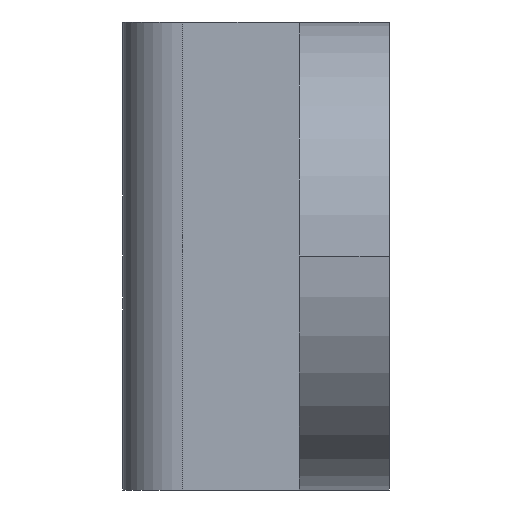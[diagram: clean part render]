
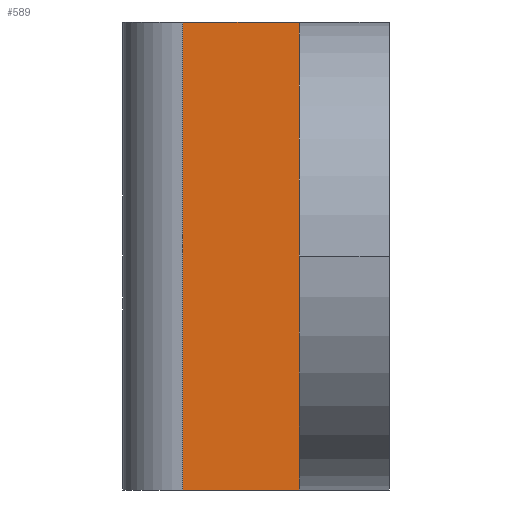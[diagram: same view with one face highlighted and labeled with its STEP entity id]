
A CAD part, left-side view. The second image highlights one B-rep face of the part: STEP entity #589.
In plain terms, the highlighted planar face has unit normal (-1, 0, 0).
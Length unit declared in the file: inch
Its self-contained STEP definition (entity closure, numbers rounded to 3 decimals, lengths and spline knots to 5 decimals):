
#20 = EDGE_CURVE ( 'NONE', #490, #824, #145, .T. ) ;
#72 = DIRECTION ( 'NONE',  ( 0., -1., 0. ) ) ;
#91 = EDGE_CURVE ( 'NONE', #364, #344, #414, .T. ) ;
#130 = VECTOR ( 'NONE', #929, 39.37008 ) ;
#131 = ORIENTED_EDGE ( 'NONE', *, *, #190, .F. ) ;
#145 = LINE ( 'NONE', #539, #130 ) ;
#190 = EDGE_CURVE ( 'NONE', #490, #364, #370, .T. ) ;
#228 = EDGE_LOOP ( 'NONE', ( #131, #1051, #716, #310 ) ) ;
#284 = CARTESIAN_POINT ( 'NONE',  ( -0.55, 0.356, -0.3125 ) ) ;
#300 = CARTESIAN_POINT ( 'NONE',  ( -0.55, 0.12, -0.3125 ) ) ;
#310 = ORIENTED_EDGE ( 'NONE', *, *, #91, .F. ) ;
#328 = EDGE_CURVE ( 'NONE', #824, #344, #587, .T. ) ;
#344 = VERTEX_POINT ( 'NONE', #300 ) ;
#353 = CARTESIAN_POINT ( 'NONE',  ( -0.55, 0.356, 0.3125 ) ) ;
#364 = VERTEX_POINT ( 'NONE', #782 ) ;
#370 = LINE ( 'NONE', #353, #776 ) ;
#395 = DIRECTION ( 'NONE',  ( 0., -1., 0. ) ) ;
#398 = VECTOR ( 'NONE', #910, 39.37008 ) ;
#414 = LINE ( 'NONE', #795, #398 ) ;
#475 = AXIS2_PLACEMENT_3D ( 'NONE', #1231, #1071, #855 ) ;
#490 = VERTEX_POINT ( 'NONE', #605 ) ;
#539 = CARTESIAN_POINT ( 'NONE',  ( -0.55, 0.276, 0.3125 ) ) ;
#587 = LINE ( 'NONE', #284, #1225 ) ;
#589 = ADVANCED_FACE ( 'NONE', ( #1271 ), #949, .F. ) ;
#605 = CARTESIAN_POINT ( 'NONE',  ( -0.55, 0.276, 0.3125 ) ) ;
#716 = ORIENTED_EDGE ( 'NONE', *, *, #328, .T. ) ;
#776 = VECTOR ( 'NONE', #72, 39.37008 ) ;
#782 = CARTESIAN_POINT ( 'NONE',  ( -0.55, 0.12, 0.3125 ) ) ;
#795 = CARTESIAN_POINT ( 'NONE',  ( -0.55, 0.12, 0.3125 ) ) ;
#824 = VERTEX_POINT ( 'NONE', #1208 ) ;
#855 = DIRECTION ( 'NONE',  ( 0., 0., -1. ) ) ;
#910 = DIRECTION ( 'NONE',  ( 0., 0., -1. ) ) ;
#929 = DIRECTION ( 'NONE',  ( 0., 0., -1. ) ) ;
#949 = PLANE ( 'NONE',  #475 ) ;
#1051 = ORIENTED_EDGE ( 'NONE', *, *, #20, .T. ) ;
#1071 = DIRECTION ( 'NONE',  ( 1., 0., 0. ) ) ;
#1208 = CARTESIAN_POINT ( 'NONE',  ( -0.55, 0.276, -0.3125 ) ) ;
#1225 = VECTOR ( 'NONE', #395, 39.37008 ) ;
#1231 = CARTESIAN_POINT ( 'NONE',  ( -0.55, 0.356, 0.3125 ) ) ;
#1271 = FACE_OUTER_BOUND ( 'NONE', #228, .T. ) ;
